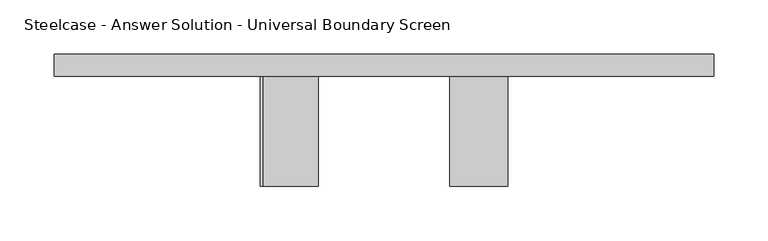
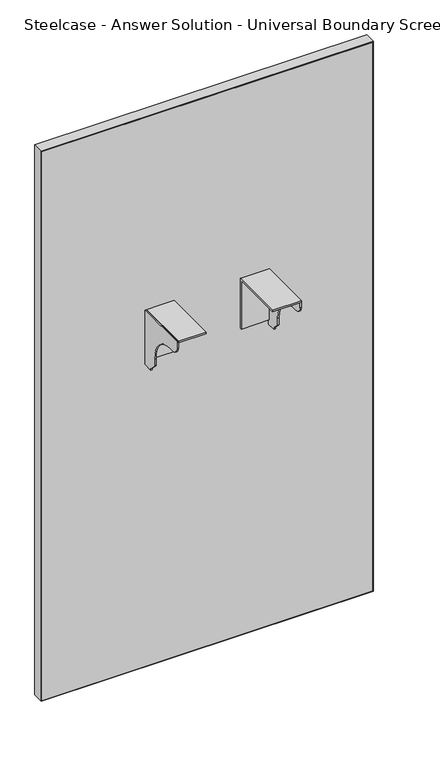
"""IFC4 building model written with IfcOpenShell, lengths in millimetres: furniture geometry, Steelcase - Answer Solution - Universal Boundary Screen : 42H x 24W."""

from ifc_helpers import new_model, si_unit, point, frame, frame_2d, origin, place, context, project, spatial, polyline, circle_curve, trimmed, segment, composite_curve, outline, extrude, source, transform, mapped, element, save


def steelcase_answer_solution_universal_boundary_screen_cf26b618(model_context):
    return source(origin(), model_context, "Body", "SweptSolid", [
        extrude(outline(polyline([(-103.1670434, 689.3558876), (-103.1670434, 692.1499758), (-1.5668826, 692.1499758), (-1.5668826, 595.5029317), (-4.1079736, 595.5029317), (-4.1079736, 689.3558876), (-103.1670434, 689.3558876)])), frame((591.0336711, 0.0, 0.0), z_axis=(1.0, 0.0, 0.0), x_axis=(0.0, 1.0, 0.0)), (0.0, 0.0, 1.0), 53.3444116),
        extrude(outline(composite_curve([segment(polyline([(-103.1670434, 679.2814802), (-103.1670434, 692.1499758), (-1.5668826, 692.1499758), (-1.5668826, 586.9634093), (-19.8232934, 586.9634093), (-19.8232934, 589.7574248), (-32.0458032, 601.9799346), (-32.0458032, 615.7814802)]), True, "CONTINUOUS"), segment(trimmed(circle_curve(frame_2d((-82.8458032, 615.7814802)), 50.8), [point((-32.0458032, 615.7814802))], [point((-82.8458032, 666.5814802))], True, "CARTESIAN"), True, "CONTINUOUS"), segment(polyline([(-82.8458032, 666.5814802), (-90.4670434, 666.5814802)]), True, "CONTINUOUS"), segment(trimmed(circle_curve(frame_2d((-90.4670434, 679.2814802)), 12.7), [point((-90.4670434, 666.5814802))], [point((-103.1670434, 679.2814802))], False, "CARTESIAN"), True, "CONTINUOUS")], self_intersect=False)), frame((641.8328959, 0.0, 0.0), z_axis=(1.0, 0.0, 0.0), x_axis=(0.0, 1.0, 0.0)), (0.0, 0.0, 1.0), 2.5451868),
        extrude(outline(polyline([(-103.1670434, 689.3558876), (-103.1670434, 692.1499758), (-1.5668826, 692.1499758), (-1.5668826, 595.5029317), (-4.1079736, 595.5029317), (-4.1079736, 689.3558876), (-103.1670434, 689.3558876)])), frame((418.3232694, 0.0, 0.0), z_axis=(1.0, 0.0, 0.0), x_axis=(0.0, 1.0, 0.0)), (0.0, 0.0, 1.0), 50.7992249),
        extrude(outline(composite_curve([segment(polyline([(-103.1670434, 679.2814802), (-103.1670434, 692.1499758), (-1.5668826, 692.1499758), (-1.5668826, 586.9634093), (-19.8232934, 586.9634093), (-19.8232934, 589.7574248), (-32.0458032, 601.9799346), (-32.0458032, 615.7814802)]), True, "CONTINUOUS"), segment(trimmed(circle_curve(frame_2d((-82.8458032, 615.7814802)), 50.8), [point((-32.0458032, 615.7814802))], [point((-82.8458032, 666.5814802))], True, "CARTESIAN"), True, "CONTINUOUS"), segment(polyline([(-82.8458032, 666.5814802), (-90.4670434, 666.5814802)]), True, "CONTINUOUS"), segment(trimmed(circle_curve(frame_2d((-90.4670434, 679.2814802)), 12.7), [point((-90.4670434, 666.5814802))], [point((-103.1670434, 679.2814802))], False, "CARTESIAN"), True, "CONTINUOUS")], self_intersect=False)), frame((415.7780827, 0.0, 0.0), z_axis=(1.0, 0.0, 0.0), x_axis=(0.0, 1.0, 0.0)), (0.0, 0.0, 1.0), 2.5451868),
        extrude(outline(polyline([(226.2706578, 18.9055112), (833.8855076, 18.9055112), (833.8855076, -1.5668826), (226.2706578, -1.5668826), (226.2706578, 18.9055112)])), frame((0.0, 0.0, 1.016), z_axis=(0.0, 0.0, 1.0), x_axis=(1.0, 0.0, 0.0)), (0.0, 0.0, 1.0), 1064.7914249),
        extrude(outline(polyline([(1066.8, 834.8780827), (1066.8, 225.2780827), (0.0, 225.2780827), (0.0, 834.8780827), (1066.8, 834.8780827)]), holes=[polyline([(1065.8074249, 833.8855076), (1.016, 833.8855076), (1.016, 226.2706578), (1065.8074249, 226.2706578), (1065.8074249, 833.8855076)])]), frame((0.0, -1.5668826, 0.0), z_axis=(0.0, 1.0, 0.0), x_axis=(0.0, 0.0, 1.0)), (0.0, 0.0, 1.0), 20.4723938),
    ])


if __name__ == "__main__":
    model = new_model("IFC4")
    model_context = context("Model", 3, world=origin())
    ifc_project = project(units=[si_unit("LENGTHUNIT", "METRE", prefix="MILLI")], contexts=[model_context])
    site = spatial("IfcSite", under=ifc_project)
    building = spatial("IfcBuilding", under=site)
    placement = place(None, origin())
    steelcase_answer_solution_universal_boundary_screen_shape = steelcase_answer_solution_universal_boundary_screen_cf26b618(model_context)
    element("IfcFurniture", 1, ObjectType="Steelcase - Answer Solution - Universal Boundary Screen : 42H x 24W", at=placement, inside=building, context=model_context, shape_type="MappedRepresentation", body=[
        mapped(steelcase_answer_solution_universal_boundary_screen_shape, transform((0.0, 0.0, 0.0), x_axis=(1.0, 0.0, 0.0), y_axis=(0.0, 1.0, 0.0), z_axis=(0.0, 0.0, 1.0))),
    ])
    save(model, "model.ifc")
